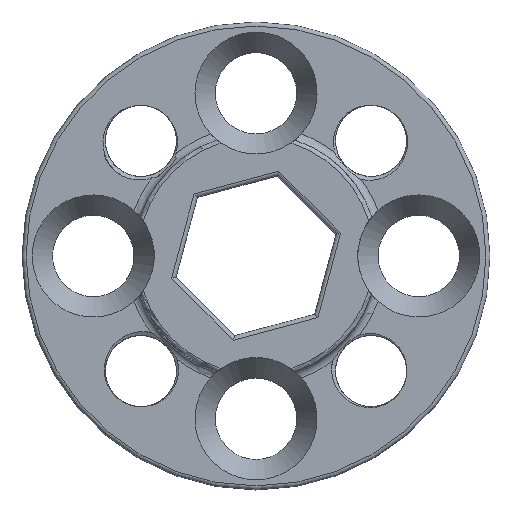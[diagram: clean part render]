
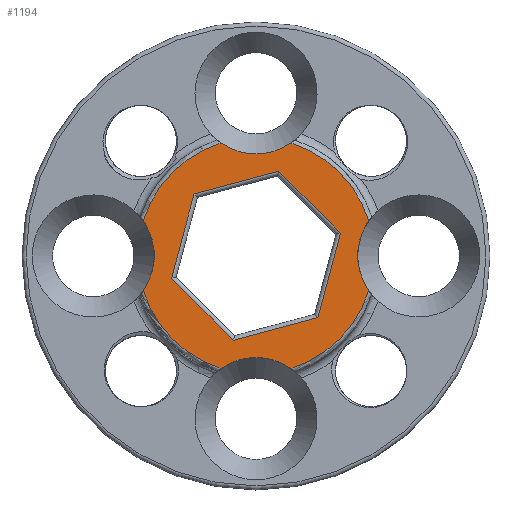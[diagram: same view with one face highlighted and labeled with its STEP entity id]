
A CAD part, top view. The second image highlights one B-rep face of the part: STEP entity #1194.
In plain terms, the highlighted planar face has unit normal (0, 0, 1).
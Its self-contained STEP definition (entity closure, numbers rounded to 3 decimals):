
#237=CARTESIAN_POINT('',(3.041,-3.041,8.));
#238=VERTEX_POINT('',#237);
#246=CARTESIAN_POINT('',(4.155,1.113,8.));
#247=VERTEX_POINT('',#246);
#248=CARTESIAN_POINT('',(4.155,1.113,8.));
#249=DIRECTION('',(-0.259,-0.966,0.));
#250=VECTOR('',#249,4.301);
#251=LINE('',#248,#250);
#252=EDGE_CURVE('',#247,#238,#251,.T.);
#270=CARTESIAN_POINT('',(-1.113,-4.155,8.));
#271=VERTEX_POINT('',#270);
#279=CARTESIAN_POINT('',(3.041,-3.041,8.));
#280=DIRECTION('',(-0.966,-0.259,0.));
#281=VECTOR('',#280,4.301);
#282=LINE('',#279,#281);
#283=EDGE_CURVE('',#238,#271,#282,.T.);
#300=CARTESIAN_POINT('',(-4.155,-1.113,8.));
#301=VERTEX_POINT('',#300);
#309=CARTESIAN_POINT('',(-1.113,-4.155,8.));
#310=DIRECTION('',(-0.707,0.707,0.));
#311=VECTOR('',#310,4.301);
#312=LINE('',#309,#311);
#313=EDGE_CURVE('',#271,#301,#312,.T.);
#325=CARTESIAN_POINT('',(-3.041,3.041,8.));
#326=VERTEX_POINT('',#325);
#334=CARTESIAN_POINT('',(-4.155,-1.113,8.));
#335=DIRECTION('',(0.259,0.966,0.));
#336=VECTOR('',#335,4.301);
#337=LINE('',#334,#336);
#338=EDGE_CURVE('',#301,#326,#337,.T.);
#350=CARTESIAN_POINT('',(1.113,4.155,8.));
#351=VERTEX_POINT('',#350);
#359=CARTESIAN_POINT('',(-3.041,3.041,8.));
#360=DIRECTION('',(0.966,0.259,0.));
#361=VECTOR('',#360,4.301);
#362=LINE('',#359,#361);
#363=EDGE_CURVE('',#326,#351,#362,.T.);
#381=CARTESIAN_POINT('',(1.113,4.155,8.));
#382=DIRECTION('',(0.707,-0.707,0.));
#383=VECTOR('',#382,4.301);
#384=LINE('',#381,#383);
#385=EDGE_CURVE('',#351,#247,#384,.T.);
#428=CARTESIAN_POINT('',(5.54,-1.717,8.));
#429=VERTEX_POINT('',#428);
#441=CARTESIAN_POINT('',(5.54,1.717,8.));
#442=VERTEX_POINT('',#441);
#443=CARTESIAN_POINT('',(8.,0.,8.));
#444=DIRECTION('',(-0.82,0.572,0.));
#445=DIRECTION('',(-0.,0.,1.));
#446=AXIS2_PLACEMENT_3D('',#443,#445,#444);
#447=CIRCLE('',#446,3.);
#448=EDGE_CURVE('',#442,#429,#447,.T.);
#633=CARTESIAN_POINT('',(-5.54,1.717,8.));
#634=VERTEX_POINT('',#633);
#644=CARTESIAN_POINT('',(-5.54,-1.717,8.));
#645=VERTEX_POINT('',#644);
#646=CARTESIAN_POINT('',(-8.,0.,8.));
#647=DIRECTION('',(0.82,-0.572,0.));
#648=DIRECTION('',(0.,0.,1.));
#649=AXIS2_PLACEMENT_3D('',#646,#648,#647);
#650=CIRCLE('',#649,3.);
#651=EDGE_CURVE('',#645,#634,#650,.T.);
#812=CARTESIAN_POINT('',(-1.717,5.54,8.));
#813=VERTEX_POINT('',#812);
#814=CARTESIAN_POINT('',(0.,0.,8.));
#815=DIRECTION('',(-0.955,0.296,0.));
#816=DIRECTION('',(0.,0.,-1.));
#817=AXIS2_PLACEMENT_3D('',#814,#816,#815);
#818=CIRCLE('',#817,5.8);
#819=EDGE_CURVE('',#634,#813,#818,.T.);
#848=CARTESIAN_POINT('',(1.717,5.54,8.));
#849=VERTEX_POINT('',#848);
#861=CARTESIAN_POINT('',(0.,0.,8.));
#862=DIRECTION('',(0.296,0.955,0.));
#863=DIRECTION('',(0.,-0.,-1.));
#864=AXIS2_PLACEMENT_3D('',#861,#863,#862);
#865=CIRCLE('',#864,5.8);
#866=EDGE_CURVE('',#849,#442,#865,.T.);
#932=CARTESIAN_POINT('',(0.,8.,8.));
#933=DIRECTION('',(-0.572,-0.82,0.));
#934=DIRECTION('',(-0.,-0.,1.));
#935=AXIS2_PLACEMENT_3D('',#932,#934,#933);
#936=CIRCLE('',#935,3.);
#937=EDGE_CURVE('',#813,#849,#936,.T.);
#1071=CARTESIAN_POINT('',(1.717,-5.54,8.));
#1072=VERTEX_POINT('',#1071);
#1073=CARTESIAN_POINT('',(0.,0.,8.));
#1074=DIRECTION('',(0.955,-0.296,0.));
#1075=DIRECTION('',(-0.,0.,-1.));
#1076=AXIS2_PLACEMENT_3D('',#1073,#1075,#1074);
#1077=CIRCLE('',#1076,5.8);
#1078=EDGE_CURVE('',#429,#1072,#1077,.T.);
#1119=CARTESIAN_POINT('',(-1.717,-5.54,8.));
#1120=VERTEX_POINT('',#1119);
#1130=CARTESIAN_POINT('',(0.,0.,8.));
#1131=DIRECTION('',(-0.296,-0.955,0.));
#1132=DIRECTION('',(0.,0.,-1.));
#1133=AXIS2_PLACEMENT_3D('',#1130,#1132,#1131);
#1134=CIRCLE('',#1133,5.8);
#1135=EDGE_CURVE('',#1120,#645,#1134,.T.);
#1165=CARTESIAN_POINT('',(-3.081,0.,8.));
#1166=DIRECTION('',(1.,0.,0.));
#1167=DIRECTION('',(0.,0.,1.));
#1168=AXIS2_PLACEMENT_3D('',#1165,#1167,#1166);
#1169=PLANE('',#1168);
#1170=ORIENTED_EDGE('',*,*,#1078,.F.);
#1171=ORIENTED_EDGE('',*,*,#448,.F.);
#1172=ORIENTED_EDGE('',*,*,#866,.F.);
#1173=ORIENTED_EDGE('',*,*,#937,.F.);
#1174=ORIENTED_EDGE('',*,*,#819,.F.);
#1175=ORIENTED_EDGE('',*,*,#651,.F.);
#1176=ORIENTED_EDGE('',*,*,#1135,.F.);
#1177=CARTESIAN_POINT('',(0.,-8.,8.));
#1178=DIRECTION('',(-0.572,0.82,0.));
#1179=DIRECTION('',(0.,0.,-1.));
#1180=AXIS2_PLACEMENT_3D('',#1177,#1179,#1178);
#1181=CIRCLE('',#1180,3.);
#1182=EDGE_CURVE('',#1120,#1072,#1181,.T.);
#1183=ORIENTED_EDGE('E114',*,*,#1182,.T.);
#1184=EDGE_LOOP('',(#1170,#1171,#1172,#1173,#1174,#1175,#1176,#1183));
#1185=FACE_OUTER_BOUND('',#1184,.T.);
#1186=ORIENTED_EDGE('',*,*,#252,.T.);
#1187=ORIENTED_EDGE('',*,*,#283,.T.);
#1188=ORIENTED_EDGE('',*,*,#313,.T.);
#1189=ORIENTED_EDGE('',*,*,#338,.T.);
#1190=ORIENTED_EDGE('',*,*,#363,.T.);
#1191=ORIENTED_EDGE('',*,*,#385,.T.);
#1192=EDGE_LOOP('',(#1186,#1187,#1188,#1189,#1190,#1191));
#1193=FACE_BOUND('',#1192,.T.);
#1194=ADVANCED_FACE('F2',(#1185,#1193),#1169,.T.);
